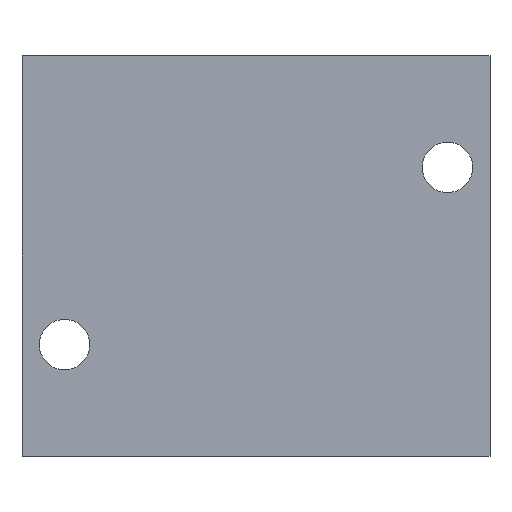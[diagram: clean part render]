
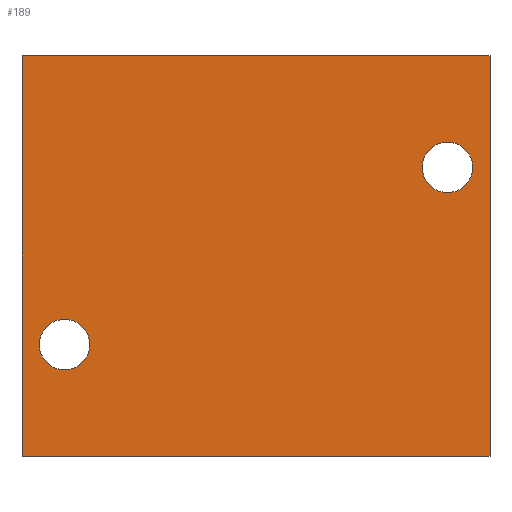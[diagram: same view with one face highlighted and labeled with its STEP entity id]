
A CAD part, front view. The second image highlights one B-rep face of the part: STEP entity #189.
In plain terms, the highlighted planar face has unit normal (0, -1, 0).
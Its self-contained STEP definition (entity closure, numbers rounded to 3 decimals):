
#19 = LINE ( 'NONE', #1170, #611 ) ;
#27 = DIRECTION ( 'NONE',  ( 1., 0., 0. ) ) ;
#64 = CARTESIAN_POINT ( 'NONE',  ( -54., -52.5, -25. ) ) ;
#65 = CARTESIAN_POINT ( 'NONE',  ( -66., -52.5, -56.5 ) ) ;
#71 = FACE_BOUND ( 'NONE', #1351, .T. ) ;
#72 = EDGE_CURVE ( 'NONE', #1173, #1218, #777, .T. ) ;
#97 = CARTESIAN_POINT ( 'NONE',  ( 66., -52.5, -56.5 ) ) ;
#108 = DIRECTION ( 'NONE',  ( 0., 1., 0. ) ) ;
#118 = CARTESIAN_POINT ( 'NONE',  ( -66., -52.5, 56.5 ) ) ;
#139 = DIRECTION ( 'NONE',  ( 0., -1., 0. ) ) ;
#164 = ORIENTED_EDGE ( 'NONE', *, *, #1352, .F. ) ;
#189 = ADVANCED_FACE ( 'NONE', ( #71, #1214, #1348 ), #676, .F. ) ;
#192 = DIRECTION ( 'NONE',  ( 0., -1., 0. ) ) ;
#235 = CARTESIAN_POINT ( 'NONE',  ( 66., -52.5, 56.5 ) ) ;
#236 = EDGE_CURVE ( 'NONE', #452, #702, #19, .T. ) ;
#269 = CARTESIAN_POINT ( 'NONE',  ( -54., -52.5, -25. ) ) ;
#272 = LINE ( 'NONE', #65, #325 ) ;
#273 = ORIENTED_EDGE ( 'NONE', *, *, #236, .T. ) ;
#296 = ORIENTED_EDGE ( 'NONE', *, *, #1225, .F. ) ;
#297 = EDGE_CURVE ( 'NONE', #808, #315, #800, .T. ) ;
#306 = ORIENTED_EDGE ( 'NONE', *, *, #72, .F. ) ;
#315 = VERTEX_POINT ( 'NONE', #1251 ) ;
#325 = VECTOR ( 'NONE', #626, 1000. ) ;
#348 = EDGE_CURVE ( 'NONE', #452, #792, #814, .T. ) ;
#355 = CIRCLE ( 'NONE', #807, 7.125 ) ;
#363 = CARTESIAN_POINT ( 'NONE',  ( -66., -52.5, 56.5 ) ) ;
#452 = VERTEX_POINT ( 'NONE', #363 ) ;
#486 = EDGE_CURVE ( 'NONE', #792, #794, #820, .T. ) ;
#507 = CARTESIAN_POINT ( 'NONE',  ( -66., -52.5, -56.5 ) ) ;
#513 = DIRECTION ( 'NONE',  ( 0., -1., 0. ) ) ;
#541 = CARTESIAN_POINT ( 'NONE',  ( 66., -52.5, 56.5 ) ) ;
#558 = ORIENTED_EDGE ( 'NONE', *, *, #486, .F. ) ;
#590 = AXIS2_PLACEMENT_3D ( 'NONE', #867, #108, #1322 ) ;
#610 = CARTESIAN_POINT ( 'NONE',  ( -54., -52.5, -17.875 ) ) ;
#611 = VECTOR ( 'NONE', #1272, 1000. ) ;
#626 = DIRECTION ( 'NONE',  ( 1., 0., 0. ) ) ;
#637 = DIRECTION ( 'NONE',  ( 0., -1., 0. ) ) ;
#676 = PLANE ( 'NONE',  #590 ) ;
#679 = EDGE_LOOP ( 'NONE', ( #793, #558, #1041, #273 ) ) ;
#686 = CIRCLE ( 'NONE', #784, 7.125 ) ;
#702 = VERTEX_POINT ( 'NONE', #507 ) ;
#743 = DIRECTION ( 'NONE',  ( 0., 0., -1. ) ) ;
#777 = CIRCLE ( 'NONE', #1178, 7.125 ) ;
#784 = AXIS2_PLACEMENT_3D ( 'NONE', #1417, #192, #858 ) ;
#792 = VERTEX_POINT ( 'NONE', #541 ) ;
#793 = ORIENTED_EDGE ( 'NONE', *, *, #1145, .T. ) ;
#794 = VERTEX_POINT ( 'NONE', #97 ) ;
#797 = VECTOR ( 'NONE', #913, 1000. ) ;
#800 = CIRCLE ( 'NONE', #987, 7.125 ) ;
#807 = AXIS2_PLACEMENT_3D ( 'NONE', #269, #513, #1402 ) ;
#808 = VERTEX_POINT ( 'NONE', #1126 ) ;
#814 = LINE ( 'NONE', #118, #1134 ) ;
#820 = LINE ( 'NONE', #235, #797 ) ;
#825 = CARTESIAN_POINT ( 'NONE',  ( 54., -52.5, 25. ) ) ;
#858 = DIRECTION ( 'NONE',  ( 0., 0., -1. ) ) ;
#867 = CARTESIAN_POINT ( 'NONE',  ( -66., -52.5, 56.5 ) ) ;
#913 = DIRECTION ( 'NONE',  ( 0., 0., -1. ) ) ;
#987 = AXIS2_PLACEMENT_3D ( 'NONE', #825, #139, #1279 ) ;
#1041 = ORIENTED_EDGE ( 'NONE', *, *, #348, .F. ) ;
#1126 = CARTESIAN_POINT ( 'NONE',  ( 54., -52.5, 32.125 ) ) ;
#1134 = VECTOR ( 'NONE', #27, 1000. ) ;
#1145 = EDGE_CURVE ( 'NONE', #702, #794, #272, .T. ) ;
#1170 = CARTESIAN_POINT ( 'NONE',  ( -66., -52.5, 56.5 ) ) ;
#1173 = VERTEX_POINT ( 'NONE', #1203 ) ;
#1178 = AXIS2_PLACEMENT_3D ( 'NONE', #64, #637, #743 ) ;
#1203 = CARTESIAN_POINT ( 'NONE',  ( -54., -52.5, -32.125 ) ) ;
#1214 = FACE_BOUND ( 'NONE', #1298, .T. ) ;
#1218 = VERTEX_POINT ( 'NONE', #610 ) ;
#1225 = EDGE_CURVE ( 'NONE', #1218, #1173, #355, .T. ) ;
#1251 = CARTESIAN_POINT ( 'NONE',  ( 54., -52.5, 17.875 ) ) ;
#1272 = DIRECTION ( 'NONE',  ( 0., 0., -1. ) ) ;
#1279 = DIRECTION ( 'NONE',  ( 0., 0., -1. ) ) ;
#1298 = EDGE_LOOP ( 'NONE', ( #306, #296 ) ) ;
#1322 = DIRECTION ( 'NONE',  ( 0., 0., 1. ) ) ;
#1348 = FACE_OUTER_BOUND ( 'NONE', #679, .T. ) ;
#1351 = EDGE_LOOP ( 'NONE', ( #164, #1456 ) ) ;
#1352 = EDGE_CURVE ( 'NONE', #315, #808, #686, .T. ) ;
#1402 = DIRECTION ( 'NONE',  ( 0., 0., -1. ) ) ;
#1417 = CARTESIAN_POINT ( 'NONE',  ( 54., -52.5, 25. ) ) ;
#1456 = ORIENTED_EDGE ( 'NONE', *, *, #297, .F. ) ;
